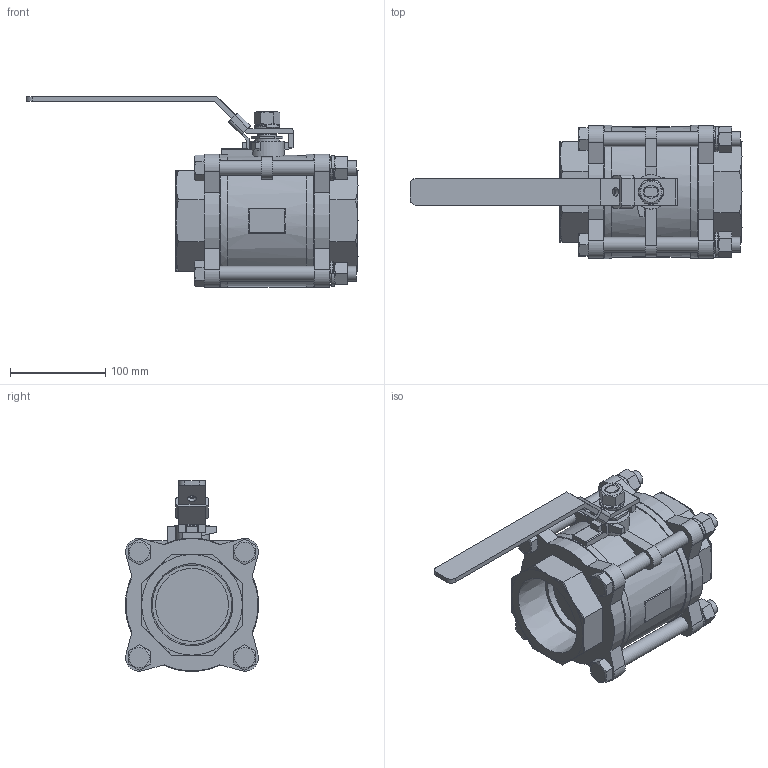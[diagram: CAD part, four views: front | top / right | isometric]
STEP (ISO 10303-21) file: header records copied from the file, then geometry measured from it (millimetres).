
FILE_DESCRIPTION((' '),'2;1');
FILE_NAME('N:\Technical Support\Private\Jomar Valve CAD\Ball Valves\CS and SS\1000N-4B\3.0 T-SS-1000N-4B (500-310) FusionCopy.stp.step','2016-07-05T11:53:25',(' '),(' '),' ','ACIS',' ');
FILE_SCHEMA(('CONFIG_CONTROL_DESIGN'));
Length unit declared in the file: inch
Products named in the file (22): N:\Technical Support\Private\Jomar Valve CAD\Ball Valves\CS and SS\1000N-4B\3.0 T-SS-1000N-4B (500-310) FusionCopy.stp.step; Body1; Body2; Body3; Body4; Body5; Body6; Body7; Body8; Body9; Body10; Body11; Body12; Body13; Body14; Body15; Body16; Body17; Body18; Body19; Body20; Body21
Assembly tree (21 placements, depth 2):
  N:\Technical Support\Private\Jomar Valve CAD\Ball Valves\CS and SS\1000N-4B\3.0 T-SS-1000N-4B (500-310) FusionCopy.stp.step
    Body1
    Body2
    Body3
    Body4
    Body5
    Body6
    Body7
    Body8
    Body9
    Body10
    Body11
    Body12
    Body13
    Body14
    Body15
    Body16
    Body17
    Body18
    Body19
    Body20
    Body21
Bounding box: 348.36 x 139.9 x 200.37 mm (x, y, z)
Volume: 2335670 mm3; surface area: 286543.2 mm2
Topology: 29 solids, 29 shells, 497 faces, 1147 edges, 693 vertices
Faces by surface type: plane 192, bspline 185, cone 51, cylinder 45, torus 24
Full cylindrical faces by diameter (mm): 8.941 x1, 13.716 x3, 15.723 x2, 16.51 x4, 16.764 x1, 18.974 x1, 19.558 x1, 25.908 x1, 36.195 x1, 76.454 x1, 139.903 x1
Entity records: 18702 total; most frequent: CARTESIAN_POINT 5316, ORIENTED_EDGE 2170, DIRECTION 2014, EDGE_CURVE 1085, AXIS2_PLACEMENT_3D 726, VERTEX_POINT 678, EDGE_LOOP 597, VECTOR 562
